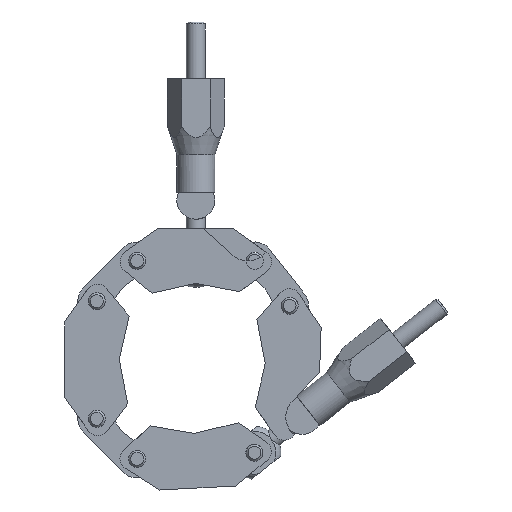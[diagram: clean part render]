
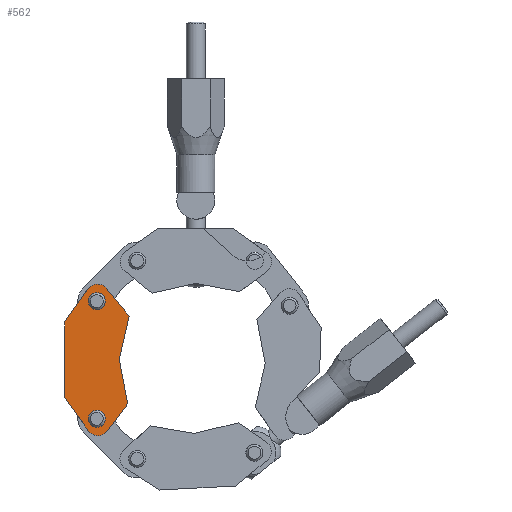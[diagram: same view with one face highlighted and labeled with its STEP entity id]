
A CAD part, front view. The second image highlights one B-rep face of the part: STEP entity #562.
In plain terms, the highlighted planar face has unit normal (0, -1, 0) as drawn and (0, 1, 0) by its records, which use the part's own axes.
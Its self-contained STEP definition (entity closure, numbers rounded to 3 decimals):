
#562 = ADVANCED_FACE( '', ( #1000, #1001, #1002 ), #1003, .T. );
#1000 = FACE_BOUND( '', #1374, .T. );
#1001 = FACE_BOUND( '', #1375, .T. );
#1002 = FACE_OUTER_BOUND( '', #1376, .T. );
#1003 = PLANE( '', #1377 );
#1374 = EDGE_LOOP( '', ( #1919 ) );
#1375 = EDGE_LOOP( '', ( #1920 ) );
#1376 = EDGE_LOOP( '', ( #1921, #1922, #1923, #1924, #1925, #1926, #1927, #1928, #1929 ) );
#1377 = AXIS2_PLACEMENT_3D( '', #1930, #1931, #1932 );
#1919 = ORIENTED_EDGE( '', *, *, #2923, .F. );
#1920 = ORIENTED_EDGE( '', *, *, #2924, .F. );
#1921 = ORIENTED_EDGE( '', *, *, #2922, .T. );
#1922 = ORIENTED_EDGE( '', *, *, #2925, .T. );
#1923 = ORIENTED_EDGE( '', *, *, #2926, .T. );
#1924 = ORIENTED_EDGE( '', *, *, #2927, .T. );
#1925 = ORIENTED_EDGE( '', *, *, #2928, .T. );
#1926 = ORIENTED_EDGE( '', *, *, #2929, .T. );
#1927 = ORIENTED_EDGE( '', *, *, #2865, .T. );
#1928 = ORIENTED_EDGE( '', *, *, #2897, .T. );
#1929 = ORIENTED_EDGE( '', *, *, #2896, .T. );
#1930 = CARTESIAN_POINT( '', ( -17.002, 10.25, -0.164 ) );
#1931 = DIRECTION( '', ( 0., 1., 0. ) );
#1932 = DIRECTION( '', ( 0., 0., 1. ) );
#2865 = EDGE_CURVE( '', #3245, #3243, #3246, .T. );
#2896 = EDGE_CURVE( '', #3295, #3299, #3301, .T. );
#2897 = EDGE_CURVE( '', #3243, #3295, #3302, .T. );
#2922 = EDGE_CURVE( '', #3299, #3342, #3344, .T. );
#2923 = EDGE_CURVE( '', #3345, #3345, #3346, .T. );
#2924 = EDGE_CURVE( '', #3347, #3347, #3348, .T. );
#2925 = EDGE_CURVE( '', #3342, #3349, #3350, .T. );
#2926 = EDGE_CURVE( '', #3349, #3351, #3352, .T. );
#2927 = EDGE_CURVE( '', #3351, #3353, #3354, .T. );
#2928 = EDGE_CURVE( '', #3353, #3355, #3356, .T. );
#2929 = EDGE_CURVE( '', #3355, #3245, #3357, .T. );
#3243 = VERTEX_POINT( '', #3678 );
#3245 = VERTEX_POINT( '', #3681 );
#3246 = LINE( '', #3682, #3683 );
#3295 = VERTEX_POINT( '', #3755 );
#3299 = VERTEX_POINT( '', #3761 );
#3301 = LINE( '', #3764, #3765 );
#3302 = CIRCLE( '', #3766, 3. );
#3342 = VERTEX_POINT( '', #3825 );
#3344 = LINE( '', #3828, #3829 );
#3345 = VERTEX_POINT( '', #3830 );
#3346 = CIRCLE( '', #3831, 2.25 );
#3347 = VERTEX_POINT( '', #3832 );
#3348 = CIRCLE( '', #3833, 2.25 );
#3349 = VERTEX_POINT( '', #3834 );
#3350 = LINE( '', #3835, #3836 );
#3351 = VERTEX_POINT( '', #3837 );
#3352 = LINE( '', #3838, #3839 );
#3353 = VERTEX_POINT( '', #3840 );
#3354 = CIRCLE( '', #3841, 3. );
#3355 = VERTEX_POINT( '', #3842 );
#3356 = LINE( '', #3843, #3844 );
#3357 = LINE( '', #3845, #3846 );
#3678 = CARTESIAN_POINT( '', ( 18.756, 10.25, 2.173 ) );
#3681 = CARTESIAN_POINT( '', ( 10.005, 10.25, 8.5 ) );
#3682 = CARTESIAN_POINT( '', ( 10.005, 10.25, 8.5 ) );
#3683 = VECTOR( '', #4640, 1000. );
#3755 = CARTESIAN_POINT( '', ( 18.814, 10.25, -2.646 ) );
#3761 = CARTESIAN_POINT( '', ( 11.624, 10.25, -8.112 ) );
#3764 = CARTESIAN_POINT( '', ( 18.814, 10.25, -2.646 ) );
#3765 = VECTOR( '', #4679, 1000. );
#3766 = AXIS2_PLACEMENT_3D( '', #4680, #4681, #4682 );
#3825 = CARTESIAN_POINT( '', ( 0., 10.25, -5.911 ) );
#3828 = CARTESIAN_POINT( '', ( 11.624, 10.25, -8.112 ) );
#3829 = VECTOR( '', #4715, 1000. );
#3830 = CARTESIAN_POINT( '', ( -15.5, 10.25, 2.25 ) );
#3831 = AXIS2_PLACEMENT_3D( '', #4716, #4717, #4718 );
#3832 = CARTESIAN_POINT( '', ( 15.5, 10.25, 2.25 ) );
#3833 = AXIS2_PLACEMENT_3D( '', #4719, #4720, #4721 );
#3834 = CARTESIAN_POINT( '', ( -11.543, 10.25, -8.5 ) );
#3835 = CARTESIAN_POINT( '', ( 0., 10.25, -5.911 ) );
#3836 = VECTOR( '', #4722, 1000. );
#3837 = CARTESIAN_POINT( '', ( -18.9, 10.25, -2.487 ) );
#3838 = CARTESIAN_POINT( '', ( -11.543, 10.25, -8.5 ) );
#3839 = VECTOR( '', #4723, 1000. );
#3840 = CARTESIAN_POINT( '', ( -18.742, 10.25, 2.28 ) );
#3841 = AXIS2_PLACEMENT_3D( '', #4724, #4725, #4726 );
#3842 = CARTESIAN_POINT( '', ( -10.005, 10.25, 8.5 ) );
#3843 = CARTESIAN_POINT( '', ( -18.742, 10.25, 2.28 ) );
#3844 = VECTOR( '', #4727, 1000. );
#3845 = CARTESIAN_POINT( '', ( -10.005, 10.25, 8.5 ) );
#3846 = VECTOR( '', #4728, 1000. );
#4640 = DIRECTION( '', ( 0.81, 0., -0.586 ) );
#4679 = DIRECTION( '', ( -0.796, 0., -0.605 ) );
#4680 = CARTESIAN_POINT( '', ( 16.998, 10.25, -0.258 ) );
#4681 = DIRECTION( '', ( 0., 1., 0. ) );
#4682 = DIRECTION( '', ( -1., 0., 0. ) );
#4715 = DIRECTION( '', ( -0.983, 0., 0.186 ) );
#4716 = CARTESIAN_POINT( '', ( -15.5, 10.25, 0. ) );
#4717 = DIRECTION( '', ( 0., 1., 0. ) );
#4718 = DIRECTION( '', ( 0., 0., 1. ) );
#4719 = CARTESIAN_POINT( '', ( 15.5, 10.25, 0. ) );
#4720 = DIRECTION( '', ( 0., 1., 0. ) );
#4721 = DIRECTION( '', ( 0., 0., 1. ) );
#4722 = DIRECTION( '', ( -0.976, 0., -0.219 ) );
#4723 = DIRECTION( '', ( -0.774, 0., 0.633 ) );
#4724 = CARTESIAN_POINT( '', ( -17.002, 10.25, -0.164 ) );
#4725 = DIRECTION( '', ( 0., 1., 0. ) );
#4726 = DIRECTION( '', ( 1., 0., 0. ) );
#4727 = DIRECTION( '', ( 0.815, 0., 0.58 ) );
#4728 = DIRECTION( '', ( 1., 0., 0. ) );
